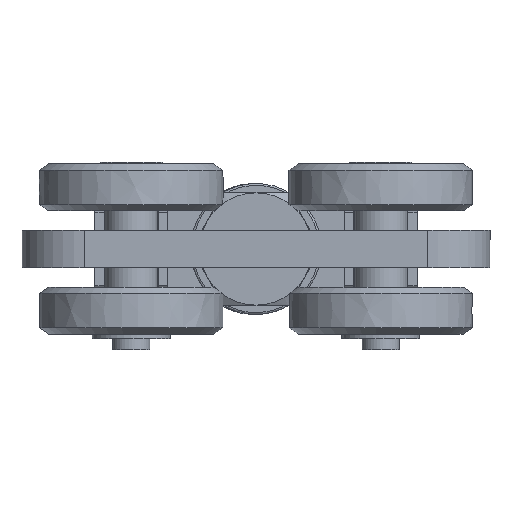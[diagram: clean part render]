
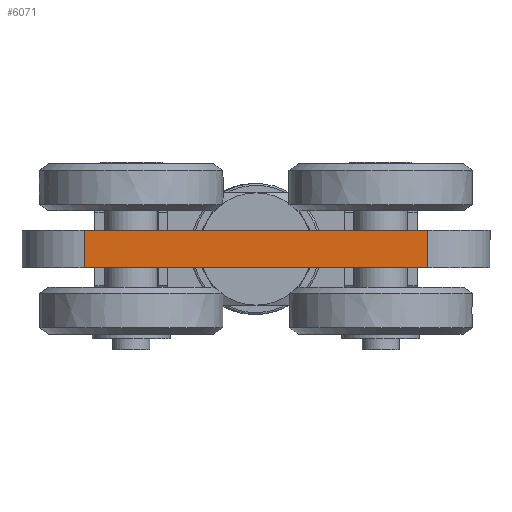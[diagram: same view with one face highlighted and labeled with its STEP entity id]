
A CAD part, front view. The second image highlights one B-rep face of the part: STEP entity #6071.
In plain terms, the highlighted planar face has unit normal (0, -1, 0) as drawn and (0, 1, 0) by its records, which use the part's own axes.
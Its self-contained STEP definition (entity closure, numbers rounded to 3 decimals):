
#1091=FACE_OUTER_BOUND('',#1451,.T.);
#1451=EDGE_LOOP('',(#4259,#4260,#4261,#4262));
#1998=LINE('',#9373,#2368);
#1999=LINE('',#9377,#2369);
#2000=LINE('',#9379,#2370);
#2001=LINE('',#9380,#2371);
#2368=VECTOR('',#7409,12.);
#2369=VECTOR('',#7414,110.);
#2370=VECTOR('',#7415,12.);
#2371=VECTOR('',#7416,110.);
#2730=VERTEX_POINT('',#9370);
#2731=VERTEX_POINT('',#9372);
#2732=VERTEX_POINT('',#9376);
#2733=VERTEX_POINT('',#9378);
#3365=EDGE_CURVE('',#2731,#2730,#1998,.T.);
#3367=EDGE_CURVE('',#2730,#2732,#1999,.T.);
#3368=EDGE_CURVE('',#2733,#2732,#2000,.T.);
#3369=EDGE_CURVE('',#2733,#2731,#2001,.T.);
#4259=ORIENTED_EDGE('',*,*,#3367,.T.);
#4260=ORIENTED_EDGE('',*,*,#3368,.F.);
#4261=ORIENTED_EDGE('',*,*,#3369,.T.);
#4262=ORIENTED_EDGE('',*,*,#3365,.T.);
#5903=PLANE('',#6485);
#6071=ADVANCED_FACE('',(#1091),#5903,.T.);
#6485=AXIS2_PLACEMENT_3D('',#9375,#7412,#7413);
#7409=DIRECTION('',(0.,0.,1.));
#7412=DIRECTION('center_axis',(0.,1.,0.));
#7413=DIRECTION('ref_axis',(0.,0.,1.));
#7414=DIRECTION('',(1.,0.,0.));
#7415=DIRECTION('',(0.,0.,1.));
#7416=DIRECTION('',(-1.,0.,0.));
#9370=CARTESIAN_POINT('',(-55.,28.,12.));
#9372=CARTESIAN_POINT('',(-55.,28.,0.));
#9373=CARTESIAN_POINT('',(-55.,28.,0.));
#9375=CARTESIAN_POINT('Origin',(-55.,28.,0.));
#9376=CARTESIAN_POINT('',(55.,28.,12.));
#9377=CARTESIAN_POINT('',(55.,28.,12.));
#9378=CARTESIAN_POINT('',(55.,28.,0.));
#9379=CARTESIAN_POINT('',(55.,28.,0.));
#9380=CARTESIAN_POINT('',(55.,28.,0.));
